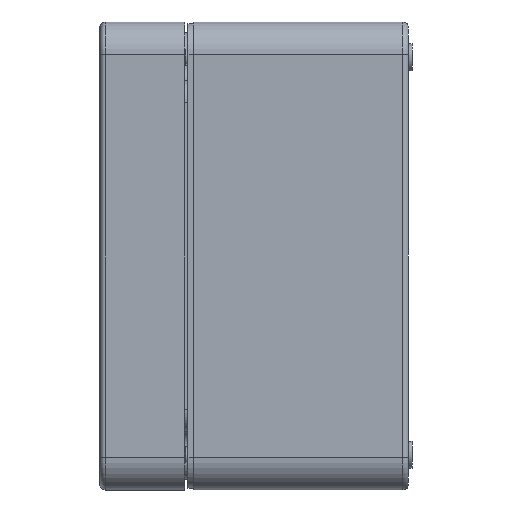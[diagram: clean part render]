
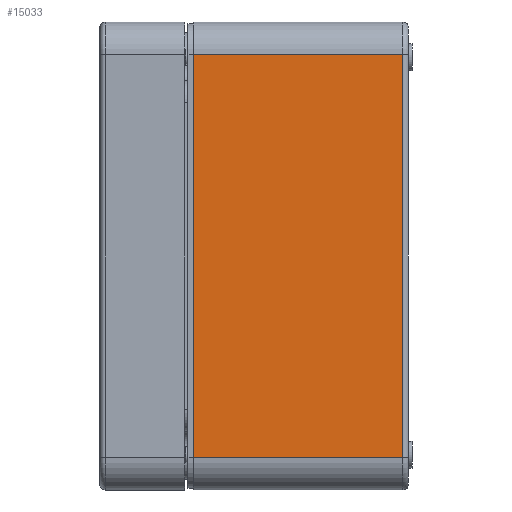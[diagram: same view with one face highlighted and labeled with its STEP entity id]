
A CAD part, left-side view. The second image highlights one B-rep face of the part: STEP entity #15033.
In plain terms, the highlighted planar face has unit normal (-1, 0, 0).
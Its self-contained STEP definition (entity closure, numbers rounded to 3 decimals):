
#3 = AXIS2_PLACEMENT_3D ( 'NONE', #1347, #11061, #2829 ) ;
#422 = CARTESIAN_POINT ( 'NONE',  ( -62.75, -40.75, 36.75 ) ) ;
#1347 = CARTESIAN_POINT ( 'NONE',  ( -62.75, -41.75, -42.75 ) ) ;
#1872 = LINE ( 'NONE', #15096, #16147 ) ;
#2316 = VECTOR ( 'NONE', #10174, 1000. ) ;
#2403 = ORIENTED_EDGE ( 'NONE', *, *, #16232, .T. ) ;
#2829 = DIRECTION ( 'NONE',  ( 0., 0., 1. ) ) ;
#3432 = DIRECTION ( 'NONE',  ( 0., -1., 0. ) ) ;
#4830 = CARTESIAN_POINT ( 'NONE',  ( -62.75, -41.75, -36.75 ) ) ;
#5280 = LINE ( 'NONE', #16529, #15841 ) ;
#5559 = DIRECTION ( 'NONE',  ( 0., 1., 0. ) ) ;
#5855 = EDGE_CURVE ( 'NONE', #6099, #14593, #6904, .T. ) ;
#6073 = ORIENTED_EDGE ( 'NONE', *, *, #15026, .T. ) ;
#6099 = VERTEX_POINT ( 'NONE', #6803 ) ;
#6803 = CARTESIAN_POINT ( 'NONE',  ( -62.75, -40.75, -36.75 ) ) ;
#6904 = LINE ( 'NONE', #422, #2316 ) ;
#7030 = EDGE_CURVE ( 'NONE', #15225, #6099, #13334, .T. ) ;
#7700 = ORIENTED_EDGE ( 'NONE', *, *, #7030, .T. ) ;
#8241 = DIRECTION ( 'NONE',  ( 0., 0., -1. ) ) ;
#8285 = PLANE ( 'NONE',  #3 ) ;
#8454 = FACE_OUTER_BOUND ( 'NONE', #17532, .T. ) ;
#8672 = CARTESIAN_POINT ( 'NONE',  ( -62.75, -2.5, -36.75 ) ) ;
#10174 = DIRECTION ( 'NONE',  ( 0., 0., 1. ) ) ;
#11061 = DIRECTION ( 'NONE',  ( -1., 0., 0. ) ) ;
#12268 = VERTEX_POINT ( 'NONE', #12512 ) ;
#12473 = VECTOR ( 'NONE', #3432, 1000. ) ;
#12512 = CARTESIAN_POINT ( 'NONE',  ( -62.75, -2.5, 36.75 ) ) ;
#13026 = ORIENTED_EDGE ( 'NONE', *, *, #5855, .T. ) ;
#13334 = LINE ( 'NONE', #4830, #12473 ) ;
#14510 = CARTESIAN_POINT ( 'NONE',  ( -62.75, -40.75, 36.75 ) ) ;
#14593 = VERTEX_POINT ( 'NONE', #14510 ) ;
#15026 = EDGE_CURVE ( 'NONE', #14593, #12268, #5280, .T. ) ;
#15033 = ADVANCED_FACE ( 'NONE', ( #8454 ), #8285, .T. ) ;
#15096 = CARTESIAN_POINT ( 'NONE',  ( -62.75, -2.5, -42.75 ) ) ;
#15225 = VERTEX_POINT ( 'NONE', #8672 ) ;
#15841 = VECTOR ( 'NONE', #5559, 1000. ) ;
#16147 = VECTOR ( 'NONE', #8241, 1000. ) ;
#16232 = EDGE_CURVE ( 'NONE', #12268, #15225, #1872, .T. ) ;
#16529 = CARTESIAN_POINT ( 'NONE',  ( -62.75, -41.75, 36.75 ) ) ;
#17532 = EDGE_LOOP ( 'NONE', ( #7700, #13026, #6073, #2403 ) ) ;
